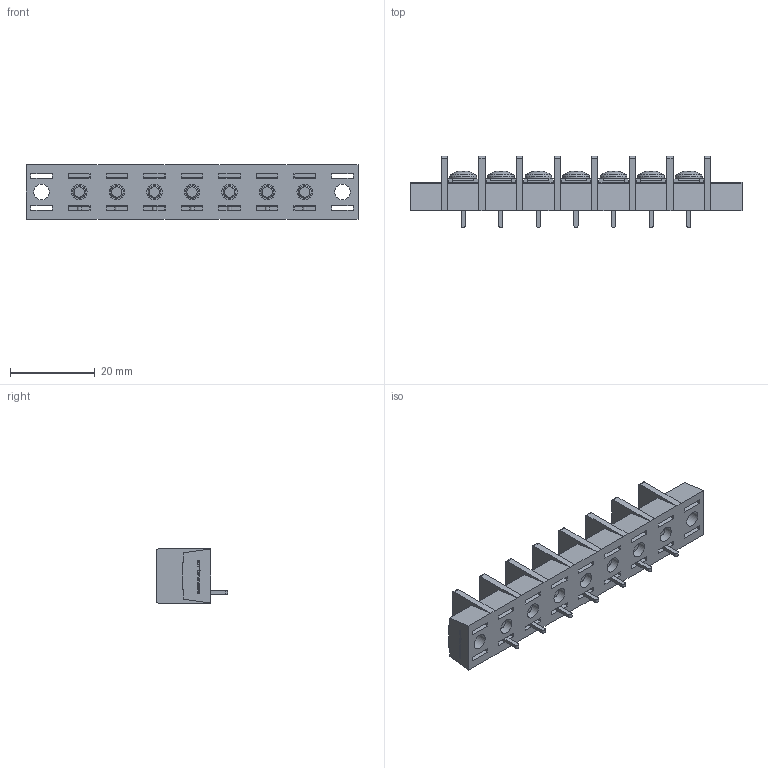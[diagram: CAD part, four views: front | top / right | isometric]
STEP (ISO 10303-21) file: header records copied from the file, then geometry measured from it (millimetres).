
FILE_DESCRIPTION(/* description */ ('Alibre Inc.'),/* implementation_level */ '2;1');
FILE_NAME(/* name */ 'export0',/* time_stamp */ '2015-10-20T08:23:15+09:00',/* author */ (''),/* organization */ (''),/* preprocessor_version */ 'ST-DEVELOPER v14',/* originating_system */ 'Alibre',/* authorisation */ '');
FILE_SCHEMA (('CONFIG_CONTROL_DESIGN'));
Length unit declared in the file: centimetre
Products named in the file (1): ID_1
Bounding box: 78.52 x 16.8 x 12.8 mm (x, y, z)
Volume: 6793.9 mm3; surface area: 8406.5 mm2
Topology: 1 solids, 120 shells, 2379 faces, 6121 edges, 4052 vertices
Faces by surface type: plane 1779, bspline 468, cylinder 76, cone 35, torus 14, sphere 7
Full cylindrical faces by diameter (mm): 3 x14, 3.7 x9, 4.6 x9, 6.3 x7
Entity records: 68936 total; most frequent: CARTESIAN_POINT 16684, ORIENTED_EDGE 12076, DIRECTION 7212, EDGE_CURVE 6038, VECTOR 4661, LINE 4661, VERTEX_POINT 4029, EDGE_LOOP 2619
